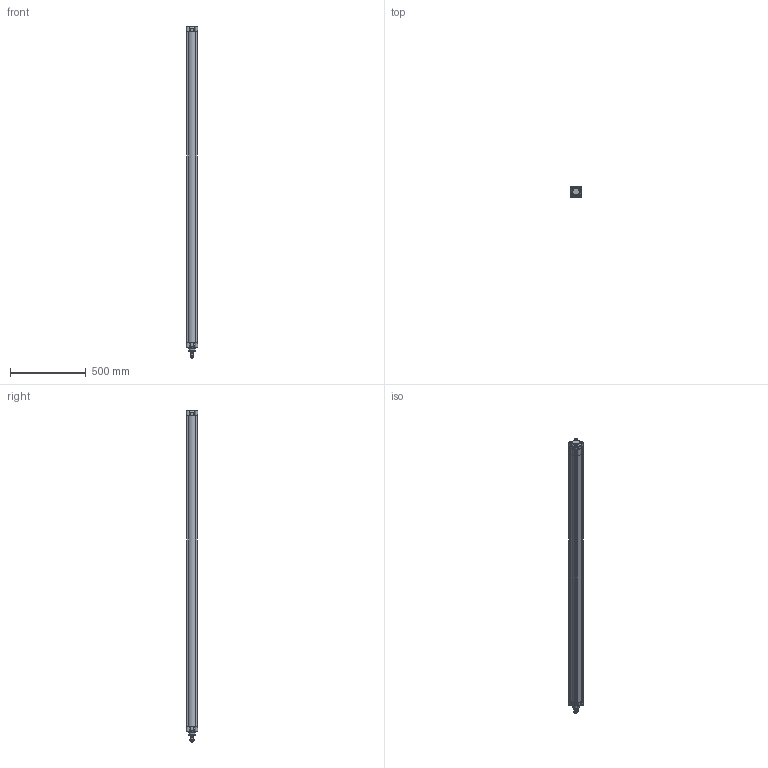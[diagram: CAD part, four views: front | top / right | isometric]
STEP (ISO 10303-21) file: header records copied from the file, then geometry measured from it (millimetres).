
FILE_DESCRIPTION(/* description */ ('Unknown'),/* implementation_level */ '2;1');
FILE_NAME(/* name */ 'HIF 63_2000',/* time_stamp */ '2025-01-13T12:06:57+01:00',/* author */ ('Unknown'),/* organization */ ('HAFNER Pneumatika Kft'),/* preprocessor_version */ 'ST-DEVELOPER v16.7',/* originating_system */ 'Solid Edge',/* authorisation */ 'Unknown');
FILE_SCHEMA (('AUTOMOTIVE_DESIGN {1 0 10303 214 3 1 1}'));
Length unit declared in the file: millimetre
Products named in the file (6): HIF 63_2000; Kit_2; Kit_1; Profilrohr; Kolbenstange; Mutter
Assembly tree (5 placements, depth 2):
  HIF 63_2000
    Kit_2
    Kit_1
    Profilrohr
    Kolbenstange
    Mutter
Bounding box: 75 x 75 x 2194 mm (x, y, z)
Volume: 2966528.4 mm3; surface area: 1648210.7 mm2
Topology: 5 solids, 20 shells, 1223 faces, 3024 edges, 1893 vertices
Faces by surface type: cylinder 514, plane 369, cone 110, torus 94, sphere 74, bspline 62
Full cylindrical faces by diameter (mm): 3 x2, 3.4 x2, 6.647 x16, 8 x8, 8.3 x8, 9.9 x2, 10 x4, 12 x2, 13 x8, 13.3 x8, 13.5 x1, 14.376 x1, 14.94 x2, 14.95 x2, 16 x1, 19.5 x1, 20 x2, 20.5 x1, 20.8 x1, 20.847 x1, 24 x1, 30 x2, 42 x1, 45 x2, 63 x2
Entity records: 47058 total; most frequent: CARTESIAN_POINT 12490, ORIENTED_EDGE 5844, DIRECTION 5229, EDGE_CURVE 2922, AXIS2_PLACEMENT_3D 2134, VERTEX_POINT 1876, FACE_BOUND 1382, EDGE_LOOP 1374
